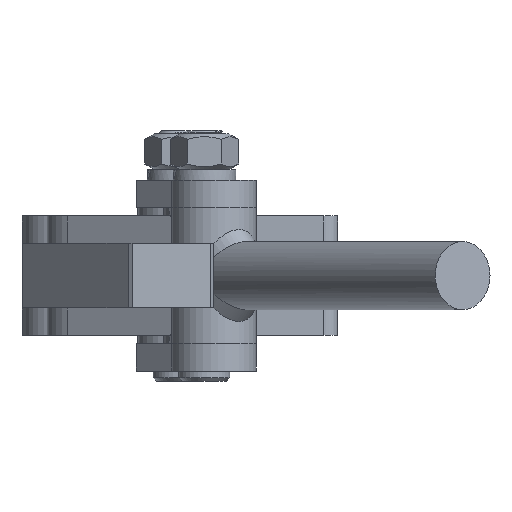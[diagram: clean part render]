
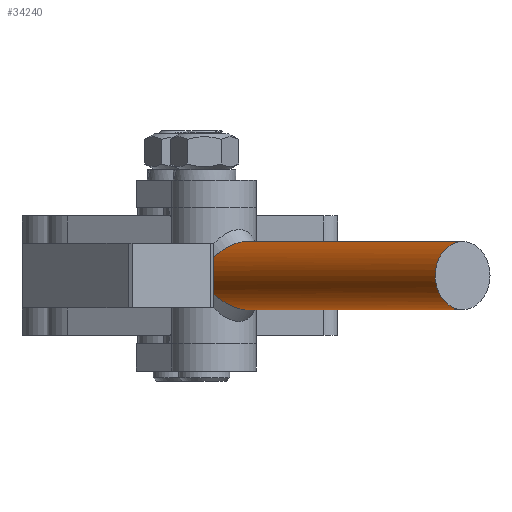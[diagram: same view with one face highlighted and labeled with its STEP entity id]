
A CAD part, left-side view. The second image highlights one B-rep face of the part: STEP entity #34240.
In plain terms, the highlighted cylindrical face has radius 10 mm (diameter 20 mm), a full revolution.
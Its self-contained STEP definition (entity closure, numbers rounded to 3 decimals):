
#1627=B_SPLINE_CURVE_WITH_KNOTS('',3,(#77367,#77368,#77369,#77370,#77371,
#77372,#77373,#77374,#77375,#77376,#77377,#77378,#77379,#77380),
 .UNSPECIFIED.,.F.,.F.,(4,2,2,2,2,2,4),(-2.479,-2.41,
-2.012,-1.615,-1.218,-0.82,
-0.751),.UNSPECIFIED.);
#1628=B_SPLINE_CURVE_WITH_KNOTS('',3,(#77384,#77385,#77386,#77387,#77388,
#77389,#77390,#77391,#77392,#77393,#77394,#77395,#77396,#77397),
 .UNSPECIFIED.,.F.,.F.,(4,2,2,2,2,2,4),(0.751,0.82,
1.218,1.615,2.012,2.41,2.479),
 .UNSPECIFIED.);
#3956=FACE_OUTER_BOUND('',#5825,.T.);
#5825=EDGE_LOOP('',(#28859,#28860,#28861,#28862,#28863,#28864,#28865,#28866,
#28867));
#8151=LINE('',#77363,#10846);
#10846=VECTOR('',#43341,10.);
#12640=CIRCLE('',#36896,10.);
#12641=CIRCLE('',#36897,10.);
#12642=CIRCLE('',#36898,10.);
#12643=CIRCLE('',#36899,10.);
#12644=CIRCLE('',#36900,10.);
#15512=VERTEX_POINT('',#77358);
#15513=VERTEX_POINT('',#77359);
#15514=VERTEX_POINT('',#77362);
#15515=VERTEX_POINT('',#77364);
#15516=VERTEX_POINT('',#77366);
#15517=VERTEX_POINT('',#77381);
#15518=VERTEX_POINT('',#77383);
#20171=EDGE_CURVE('',#15512,#15513,#12640,.T.);
#20172=EDGE_CURVE('',#15513,#15512,#12641,.T.);
#20173=EDGE_CURVE('',#15513,#15514,#8151,.T.);
#20174=EDGE_CURVE('',#15514,#15515,#12642,.T.);
#20175=EDGE_CURVE('',#15516,#15515,#1627,.T.);
#20176=EDGE_CURVE('',#15516,#15517,#12643,.T.);
#20177=EDGE_CURVE('',#15518,#15517,#1628,.T.);
#20178=EDGE_CURVE('',#15518,#15514,#12644,.T.);
#28859=ORIENTED_EDGE('',*,*,#20171,.F.);
#28860=ORIENTED_EDGE('',*,*,#20172,.F.);
#28861=ORIENTED_EDGE('',*,*,#20173,.T.);
#28862=ORIENTED_EDGE('',*,*,#20174,.T.);
#28863=ORIENTED_EDGE('',*,*,#20175,.F.);
#28864=ORIENTED_EDGE('',*,*,#20176,.T.);
#28865=ORIENTED_EDGE('',*,*,#20177,.F.);
#28866=ORIENTED_EDGE('',*,*,#20178,.T.);
#28867=ORIENTED_EDGE('',*,*,#20173,.F.);
#32886=CYLINDRICAL_SURFACE('',#36895,10.);
#34240=ADVANCED_FACE('',(#3956),#32886,.T.);
#36895=AXIS2_PLACEMENT_3D('',#77357,#43335,#43336);
#36896=AXIS2_PLACEMENT_3D('',#77360,#43337,#43338);
#36897=AXIS2_PLACEMENT_3D('',#77361,#43339,#43340);
#36898=AXIS2_PLACEMENT_3D('',#77365,#43342,#43343);
#36899=AXIS2_PLACEMENT_3D('',#77382,#43344,#43345);
#36900=AXIS2_PLACEMENT_3D('',#77398,#43346,#43347);
#43335=DIRECTION('center_axis',(-0.515,0.857,0.));
#43336=DIRECTION('ref_axis',(-0.857,-0.515,0.));
#43337=DIRECTION('center_axis',(-0.515,0.857,0.));
#43338=DIRECTION('ref_axis',(-0.857,-0.515,0.));
#43339=DIRECTION('center_axis',(-0.515,0.857,0.));
#43340=DIRECTION('ref_axis',(-0.857,-0.515,0.));
#43341=DIRECTION('',(0.515,-0.857,0.));
#43342=DIRECTION('center_axis',(-0.515,0.857,0.));
#43343=DIRECTION('ref_axis',(-0.857,-0.515,0.));
#43344=DIRECTION('center_axis',(-0.515,0.857,0.));
#43345=DIRECTION('ref_axis',(-0.857,-0.515,0.));
#43346=DIRECTION('center_axis',(-0.515,0.857,0.));
#43347=DIRECTION('ref_axis',(-0.857,-0.515,0.));
#77357=CARTESIAN_POINT('Origin',(-5.15,115.572,-20.));
#77358=CARTESIAN_POINT('',(-71.664,206.853,-20.));
#77359=CARTESIAN_POINT('',(-54.52,217.153,-20.));
#77360=CARTESIAN_POINT('Origin',(-63.092,212.003,-20.));
#77361=CARTESIAN_POINT('Origin',(-63.092,212.003,-20.));
#77362=CARTESIAN_POINT('',(3.421,120.722,-20.));
#77363=CARTESIAN_POINT('',(3.421,120.722,-20.));
#77364=CARTESIAN_POINT('',(1.278,119.434,-26.614));
#77365=CARTESIAN_POINT('Origin',(-5.15,115.572,-20.));
#77366=CARTESIAN_POINT('',(-11.579,111.709,-26.614));
#77367=CARTESIAN_POINT('Ctrl Pts',(-11.579,111.709,-26.614));
#77368=CARTESIAN_POINT('Ctrl Pts',(-11.514,111.87,-26.772));
#77369=CARTESIAN_POINT('Ctrl Pts',(-11.444,112.032,-26.925));
#77370=CARTESIAN_POINT('Ctrl Pts',(-10.945,113.123,-27.914));
#77371=CARTESIAN_POINT('Ctrl Pts',(-10.316,114.176,-28.677));
#77372=CARTESIAN_POINT('Ctrl Pts',(-8.632,116.132,-29.721));
#77373=CARTESIAN_POINT('Ctrl Pts',(-7.573,117.032,-30.));
#77374=CARTESIAN_POINT('Ctrl Pts',(-5.303,118.397,-30.));
#77375=CARTESIAN_POINT('Ctrl Pts',(-4.011,118.909,-29.721));
#77376=CARTESIAN_POINT('Ctrl Pts',(-1.494,119.477,-28.677));
#77377=CARTESIAN_POINT('Ctrl Pts',(-0.268,119.539,
-27.914));
#77378=CARTESIAN_POINT('Ctrl Pts',(0.929,119.467,-26.925));
#77379=CARTESIAN_POINT('Ctrl Pts',(1.105,119.452,-26.772));
#77380=CARTESIAN_POINT('Ctrl Pts',(1.278,119.434,-26.614));
#77381=CARTESIAN_POINT('',(-11.579,111.709,-13.386));
#77382=CARTESIAN_POINT('Origin',(-5.15,115.572,-20.));
#77383=CARTESIAN_POINT('',(1.278,119.434,-13.386));
#77384=CARTESIAN_POINT('Ctrl Pts',(1.278,119.434,-13.386));
#77385=CARTESIAN_POINT('Ctrl Pts',(1.105,119.452,-13.228));
#77386=CARTESIAN_POINT('Ctrl Pts',(0.929,119.467,-13.075));
#77387=CARTESIAN_POINT('Ctrl Pts',(-0.268,119.539,
-12.086));
#77388=CARTESIAN_POINT('Ctrl Pts',(-1.494,119.477,-11.323));
#77389=CARTESIAN_POINT('Ctrl Pts',(-4.011,118.909,-10.279));
#77390=CARTESIAN_POINT('Ctrl Pts',(-5.303,118.397,-10.));
#77391=CARTESIAN_POINT('Ctrl Pts',(-7.573,117.032,-10.));
#77392=CARTESIAN_POINT('Ctrl Pts',(-8.632,116.132,-10.279));
#77393=CARTESIAN_POINT('Ctrl Pts',(-10.316,114.176,-11.323));
#77394=CARTESIAN_POINT('Ctrl Pts',(-10.945,113.123,-12.086));
#77395=CARTESIAN_POINT('Ctrl Pts',(-11.444,112.032,-13.075));
#77396=CARTESIAN_POINT('Ctrl Pts',(-11.514,111.87,-13.228));
#77397=CARTESIAN_POINT('Ctrl Pts',(-11.579,111.709,-13.386));
#77398=CARTESIAN_POINT('Origin',(-5.15,115.572,-20.));
